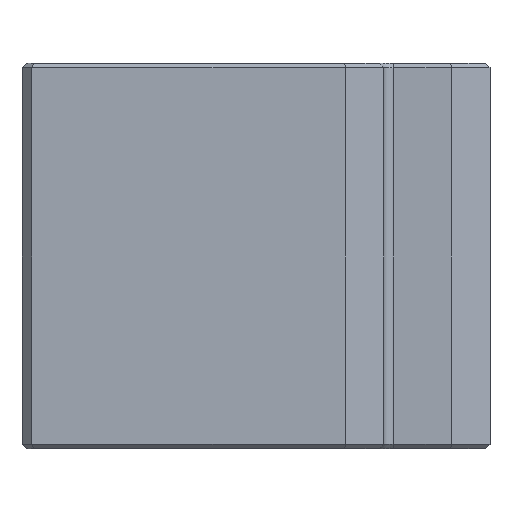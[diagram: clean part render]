
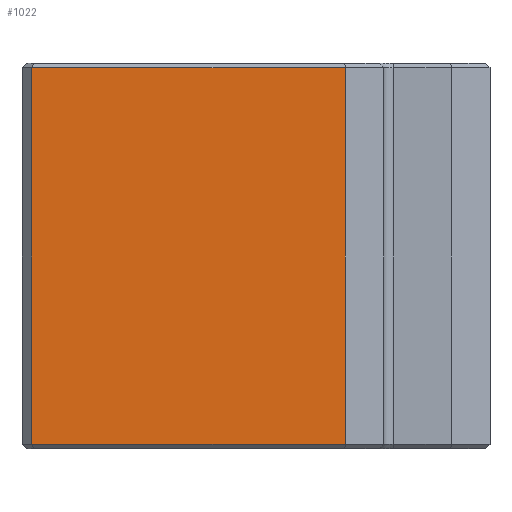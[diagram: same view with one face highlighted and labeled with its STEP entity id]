
A CAD part, left-side view. The second image highlights one B-rep face of the part: STEP entity #1022.
In plain terms, the highlighted planar face has unit normal (-1, 0, 0).
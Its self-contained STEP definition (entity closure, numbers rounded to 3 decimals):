
#49 = ORIENTED_EDGE ( 'NONE', *, *, #5593, .F. ) ;
#325 = CARTESIAN_POINT ( 'NONE',  ( -24.202, -24.563, -39. ) ) ;
#589 = VERTEX_POINT ( 'NONE', #5171 ) ;
#636 = EDGE_CURVE ( 'NONE', #2274, #3386, #3464, .T. ) ;
#970 = VERTEX_POINT ( 'NONE', #4558 ) ;
#1022 = ADVANCED_FACE ( 'NONE', ( #2887 ), #6281, .F. ) ;
#1375 = VECTOR ( 'NONE', #2375, 1000. ) ;
#1599 = DIRECTION ( 'NONE',  ( 0., 0., -1. ) ) ;
#1971 = VECTOR ( 'NONE', #1599, 1000. ) ;
#2274 = VERTEX_POINT ( 'NONE', #2924 ) ;
#2375 = DIRECTION ( 'NONE',  ( 0., 1., 0. ) ) ;
#2887 = FACE_OUTER_BOUND ( 'NONE', #4039, .T. ) ;
#2924 = CARTESIAN_POINT ( 'NONE',  ( -24.202, 40.437, -39. ) ) ;
#3108 = EDGE_CURVE ( 'NONE', #970, #589, #5317, .T. ) ;
#3193 = ORIENTED_EDGE ( 'NONE', *, *, #636, .T. ) ;
#3386 = VERTEX_POINT ( 'NONE', #5287 ) ;
#3464 = LINE ( 'NONE', #325, #4834 ) ;
#3685 = CARTESIAN_POINT ( 'NONE',  ( -24.202, 40.437, 39. ) ) ;
#3735 = DIRECTION ( 'NONE',  ( 0., -1., 0. ) ) ;
#3782 = AXIS2_PLACEMENT_3D ( 'NONE', #6478, #5531, #4333 ) ;
#3794 = EDGE_CURVE ( 'NONE', #589, #2274, #4711, .T. ) ;
#4039 = EDGE_LOOP ( 'NONE', ( #6440, #3193, #49, #5244 ) ) ;
#4181 = CARTESIAN_POINT ( 'NONE',  ( -24.202, -24.563, 40. ) ) ;
#4333 = DIRECTION ( 'NONE',  ( 0., 0., -1. ) ) ;
#4558 = CARTESIAN_POINT ( 'NONE',  ( -24.202, -24.563, 39. ) ) ;
#4711 = LINE ( 'NONE', #6246, #1971 ) ;
#4834 = VECTOR ( 'NONE', #3735, 1000. ) ;
#5111 = VECTOR ( 'NONE', #6073, 1000. ) ;
#5171 = CARTESIAN_POINT ( 'NONE',  ( -24.202, 40.437, 39. ) ) ;
#5244 = ORIENTED_EDGE ( 'NONE', *, *, #3108, .T. ) ;
#5287 = CARTESIAN_POINT ( 'NONE',  ( -24.202, -24.563, -39. ) ) ;
#5317 = LINE ( 'NONE', #3685, #1375 ) ;
#5531 = DIRECTION ( 'NONE',  ( 1., 0., 0. ) ) ;
#5593 = EDGE_CURVE ( 'NONE', #970, #3386, #6295, .T. ) ;
#6073 = DIRECTION ( 'NONE',  ( 0., 0., -1. ) ) ;
#6246 = CARTESIAN_POINT ( 'NONE',  ( -24.202, 40.437, 40. ) ) ;
#6281 = PLANE ( 'NONE',  #3782 ) ;
#6295 = LINE ( 'NONE', #4181, #5111 ) ;
#6440 = ORIENTED_EDGE ( 'NONE', *, *, #3794, .T. ) ;
#6478 = CARTESIAN_POINT ( 'NONE',  ( -24.202, -24.563, 40. ) ) ;
